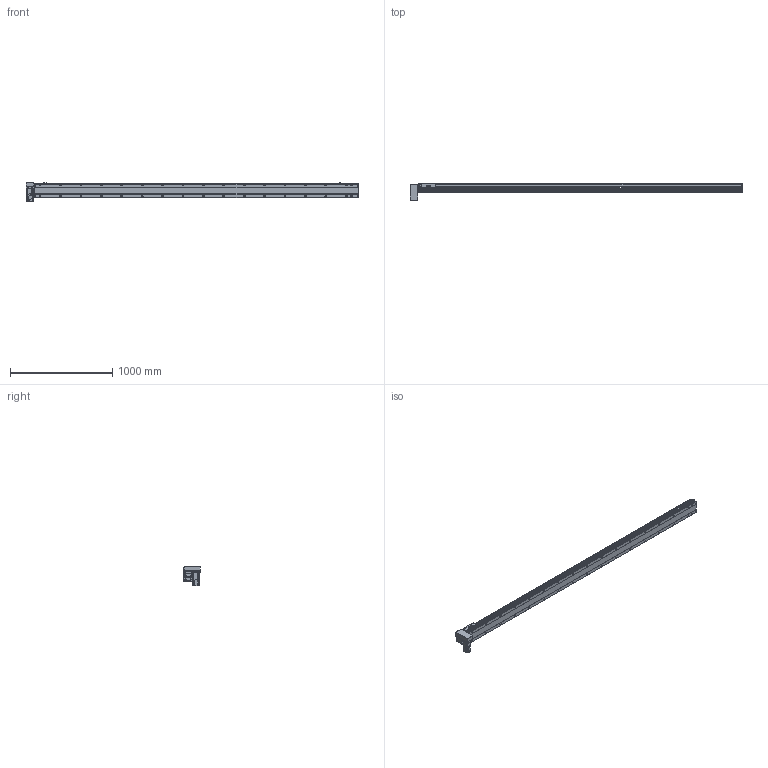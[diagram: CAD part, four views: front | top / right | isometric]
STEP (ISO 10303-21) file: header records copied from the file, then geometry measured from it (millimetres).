
FILE_DESCRIPTION( ( 'STEP AP214' ), '1' );
FILE_NAME( 'x:/temp/worker_6/temp/exporttempdir_5396_192_jJW25/format_0/PBS140S-P40-S2900-RD-T40-C1-N(0).stp', '2022-06-09T00:48:49', ( 'License CC BY-ND 4.0' ), ( 'CADENAS' ), ' ', 'PARTsolutions', ' ' );
FILE_SCHEMA( ( 'AUTOMOTIVE_DESIGN { 1 0 10303 214 1 1 1 1 }' ) );
Length unit declared in the file: millimetre
Products named in the file (7): PBS140S-P40-S2900-RD-T40-C1-N(0); _PBS140S-S2900()_body; _PBS140ST-RD_motors; _T40-p1; _PBS140S_sliser; _PBS140S_plant; _PBS140S_sensor
Assembly tree (8 placements, depth 2):
  PBS140S-P40-S2900-RD-T40-C1-N(0)
    _PBS140S-S2900()_body
    _PBS140ST-RD_motors
    _T40-p1
    _PBS140S_sliser
    _PBS140S_plant
    _PBS140S_sensor  x3
Bounding box: 3254 x 172.5 x 189.7 mm (x, y, z)
Volume: 15689834.1 mm3; surface area: 2635598.9 mm2
Topology: 8 solids, 8 shells, 1243 faces, 3271 edges, 2139 vertices
Faces by surface type: plane 756, cylinder 417, cone 60, sphere 8, torus 2
Full cylindrical faces by diameter (mm): 3.242 x4, 4 x2, 4.134 x4, 4.4 x8, 4.5 x2, 4.8 x4, 4.917 x42, 5.5 x7, 6 x2, 7 x36, 7.5 x8, 8 x12, 8.5 x4, 10.5 x34, 14 x1, 30 x2, 50 x2
Entity records: 46114 total; most frequent: CARTESIAN_POINT 7918, DIRECTION 5978, ORIENTED_EDGE 5602, EDGE_CURVE 2801, AXIS2_PLACEMENT_3D 2129, VERTEX_POINT 1969, LINE 1720, VECTOR 1720
